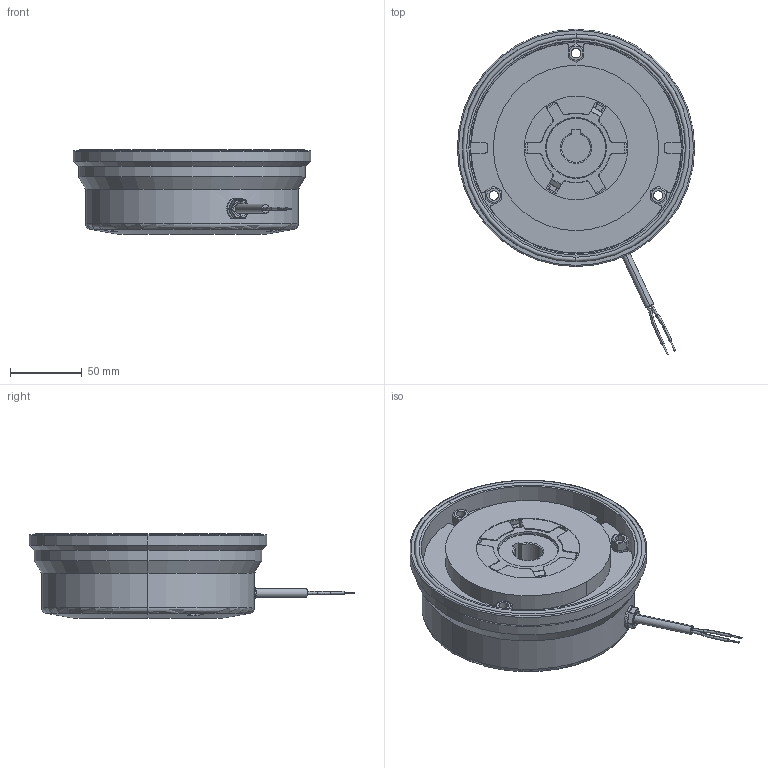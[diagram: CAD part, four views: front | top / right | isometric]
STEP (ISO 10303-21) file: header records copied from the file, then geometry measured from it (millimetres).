
FILE_DESCRIPTION (( 'STEP AP214' ), '1' );
FILE_NAME ('dr_bk_0528_mu.STEP', '2021-11-08T14:02:56', ( '' ), ( '' ), 'SwSTEP 2.0', 'SolidWorks 2019', '' );
FILE_SCHEMA (( 'AUTOMOTIVE_DESIGN' ));
Length unit declared in the file: millimetre
Products named in the file (8): dr_bk_0528_mu; 10068415_000; 10068416_000; 10068418_000; 10068414_000; 10068624_000; 10068626_000; 10068627_000
Assembly tree (9 placements, depth 2):
  dr_bk_0528_mu
    10068624_000
    10068414_000  x3
    10068415_000
    10068626_000
    10068416_000
    10068418_000
    10068627_000
Bounding box: 165 x 226.2 x 58.9 mm (x, y, z)
Volume: 892083.7 mm3; surface area: 167418.6 mm2
Topology: 11 solids, 11 shells, 521 faces, 1281 edges, 795 vertices
Faces by surface type: cylinder 250, plane 133, torus 47, cone 44, bspline 36, sphere 11
Entity records: 17767 total; most frequent: CARTESIAN_POINT 4178, DIRECTION 2547, ORIENTED_EDGE 2384, EDGE_CURVE 1192, AXIS2_PLACEMENT_3D 1037, VERTEX_POINT 742, CIRCLE 574, EDGE_LOOP 526
